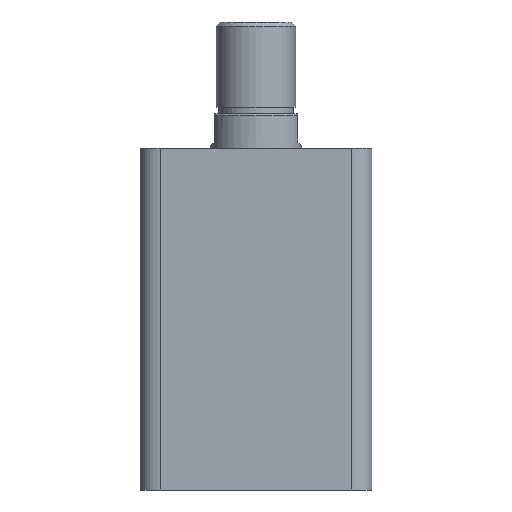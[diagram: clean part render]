
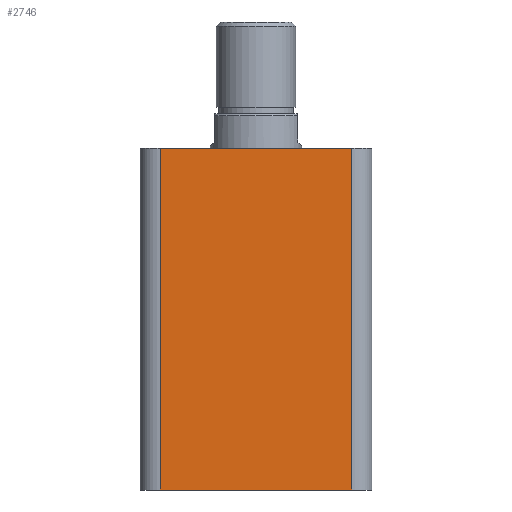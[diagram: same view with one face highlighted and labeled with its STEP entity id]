
A CAD part, front view. The second image highlights one B-rep face of the part: STEP entity #2746.
In plain terms, the highlighted planar face has unit normal (0, -1, 0).
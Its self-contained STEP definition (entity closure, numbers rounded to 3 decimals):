
#173 = ORIENTED_EDGE ( 'NONE', *, *, #909, .T. ) ;
#174 = ORIENTED_EDGE ( 'NONE', *, *, #910, .T. ) ;
#175 = ORIENTED_EDGE ( 'NONE', *, *, #911, .F. ) ;
#176 = ORIENTED_EDGE ( 'NONE', *, *, #912, .T. ) ;
#202 = LINE ( 'NONE', #1955, #205 ) ;
#205 = VECTOR ( 'NONE', #1956, 1000. ) ;
#206 = LINE ( 'NONE', #1958, #210 ) ;
#207 = LINE ( 'NONE', #1934, #208 ) ;
#208 = VECTOR ( 'NONE', #1957, 1000. ) ;
#209 = LINE ( 'NONE', #1960, #212 ) ;
#210 = VECTOR ( 'NONE', #1959, 1000. ) ;
#212 = VECTOR ( 'NONE', #1961, 1000. ) ;
#612 = CARTESIAN_POINT ( 'NONE',  ( -57., -57., 168. ) ) ;
#614 = DIRECTION ( 'NONE',  ( 0., 1., 0. ) ) ;
#615 = DIRECTION ( 'NONE',  ( 0., 0., 1. ) ) ;
#814 = EDGE_LOOP ( 'NONE', ( #173, #174, #175, #176 ) ) ;
#909 = EDGE_CURVE ( 'NONE', #1853, #1859, #202, .T. ) ;
#910 = EDGE_CURVE ( 'NONE', #1859, #1861, #207, .T. ) ;
#911 = EDGE_CURVE ( 'NONE', #1864, #1861, #206, .T. ) ;
#912 = EDGE_CURVE ( 'NONE', #1864, #1853, #209, .T. ) ;
#1211 = PLANE ( 'NONE',  #2581 ) ;
#1548 = FACE_OUTER_BOUND ( 'NONE', #814, .T. ) ;
#1853 = VERTEX_POINT ( 'NONE', #2278 ) ;
#1859 = VERTEX_POINT ( 'NONE', #2284 ) ;
#1861 = VERTEX_POINT ( 'NONE', #2286 ) ;
#1864 = VERTEX_POINT ( 'NONE', #2289 ) ;
#1934 = CARTESIAN_POINT ( 'NONE',  ( 47., -57., 168. ) ) ;
#1955 = CARTESIAN_POINT ( 'NONE',  ( -57., -57., 0. ) ) ;
#1956 = DIRECTION ( 'NONE',  ( 1., 0., 0. ) ) ;
#1957 = DIRECTION ( 'NONE',  ( 0., 0., 1. ) ) ;
#1958 = CARTESIAN_POINT ( 'NONE',  ( -57., -57., 168. ) ) ;
#1959 = DIRECTION ( 'NONE',  ( 1., 0., 0. ) ) ;
#1960 = CARTESIAN_POINT ( 'NONE',  ( -47., -57., 168. ) ) ;
#1961 = DIRECTION ( 'NONE',  ( 0., 0., -1. ) ) ;
#2278 = CARTESIAN_POINT ( 'NONE',  ( -47., -57., 0. ) ) ;
#2284 = CARTESIAN_POINT ( 'NONE',  ( 47., -57., 0. ) ) ;
#2286 = CARTESIAN_POINT ( 'NONE',  ( 47., -57., 168. ) ) ;
#2289 = CARTESIAN_POINT ( 'NONE',  ( -47., -57., 168. ) ) ;
#2581 = AXIS2_PLACEMENT_3D ( 'NONE', #612, #614, #615 ) ;
#2746 = ADVANCED_FACE ( 'NONE', ( #1548 ), #1211, .F. ) ;
